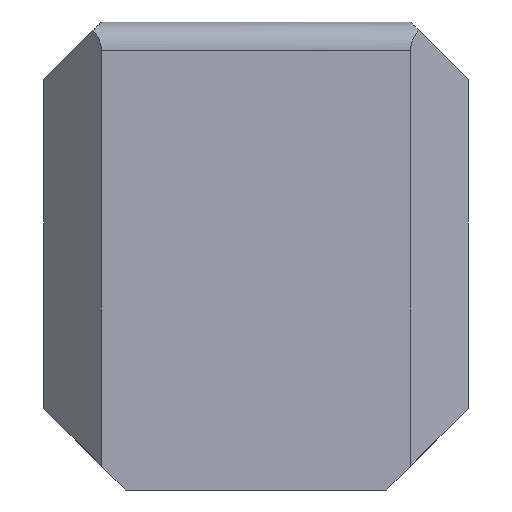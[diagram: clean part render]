
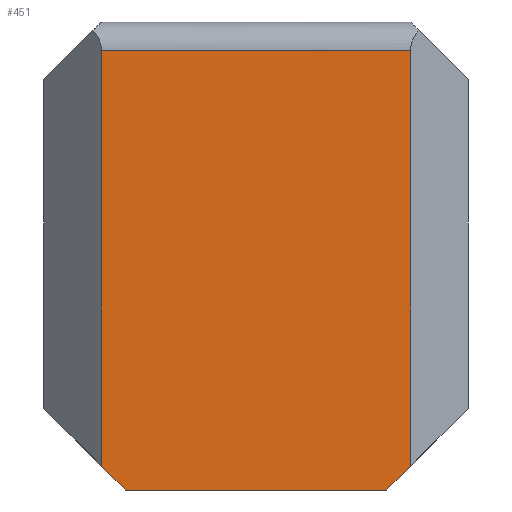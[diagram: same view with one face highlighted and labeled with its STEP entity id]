
A CAD part, front view. The second image highlights one B-rep face of the part: STEP entity #451.
In plain terms, the highlighted planar face has unit normal (0, -1, 0).
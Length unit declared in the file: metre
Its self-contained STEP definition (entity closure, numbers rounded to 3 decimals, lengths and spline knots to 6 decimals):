
#14=PLANE('',#487);
#36=LINE('',#654,#94);
#40=LINE('',#662,#98);
#44=LINE('',#669,#102);
#45=LINE('',#671,#103);
#46=LINE('',#673,#104);
#47=LINE('',#675,#105);
#94=VECTOR('',#515,1.);
#98=VECTOR('',#521,1.);
#102=VECTOR('',#529,1.);
#103=VECTOR('',#530,1.);
#104=VECTOR('',#531,1.);
#105=VECTOR('',#532,1.);
#172=ORIENTED_EDGE('',*,*,#292,.F.);
#173=ORIENTED_EDGE('',*,*,#296,.T.);
#174=ORIENTED_EDGE('',*,*,#297,.T.);
#175=ORIENTED_EDGE('',*,*,#298,.T.);
#176=ORIENTED_EDGE('',*,*,#299,.T.);
#177=ORIENTED_EDGE('',*,*,#288,.F.);
#288=EDGE_CURVE('',#354,#349,#36,.T.);
#292=EDGE_CURVE('',#357,#354,#40,.F.);
#296=EDGE_CURVE('',#357,#359,#44,.T.);
#297=EDGE_CURVE('',#359,#360,#45,.F.);
#298=EDGE_CURVE('',#360,#361,#46,.T.);
#299=EDGE_CURVE('',#361,#349,#47,.T.);
#349=VERTEX_POINT('',#638);
#354=VERTEX_POINT('',#653);
#357=VERTEX_POINT('',#661);
#359=VERTEX_POINT('',#670);
#360=VERTEX_POINT('',#672);
#361=VERTEX_POINT('',#674);
#399=EDGE_LOOP('',(#172,#173,#174,#175,#176,#177));
#424=FACE_BOUND('',#399,.T.);
#451=ADVANCED_FACE('',(#424),#14,.T.);
#487=AXIS2_PLACEMENT_3D('',#668,#527,#528);
#515=DIRECTION('',(1.,0.,0.));
#521=DIRECTION('',(0.,0.,-1.));
#527=DIRECTION('',(0.,-1.,0.));
#528=DIRECTION('',(0.,0.,1.));
#529=DIRECTION('',(0.707,0.,-0.707));
#530=DIRECTION('',(-1.,0.,0.));
#531=DIRECTION('',(0.707,0.,0.707));
#532=DIRECTION('',(0.,0.,1.));
#638=CARTESIAN_POINT('',(-0.033225,-0.00532,-0.025773));
#653=CARTESIAN_POINT('',(-0.035075,-0.00532,-0.025773));
#654=CARTESIAN_POINT('',(-0.03407,-0.00532,-0.025773));
#661=CARTESIAN_POINT('',(-0.035075,-0.00532,-0.028255));
#662=CARTESIAN_POINT('',(-0.035075,-0.00532,-0.025573));
#668=CARTESIAN_POINT('',(-0.035093,-0.00532,-0.028427));
#669=CARTESIAN_POINT('',(-0.035075,-0.00532,-0.028255));
#670=CARTESIAN_POINT('',(-0.034931,-0.00532,-0.028399));
#671=CARTESIAN_POINT('',(-0.035093,-0.00532,-0.028399));
#672=CARTESIAN_POINT('',(-0.033369,-0.00532,-0.028399));
#673=CARTESIAN_POINT('',(-0.033369,-0.00532,-0.028399));
#674=CARTESIAN_POINT('',(-0.033225,-0.00532,-0.028255));
#675=CARTESIAN_POINT('',(-0.033225,-0.00532,-0.028427));
